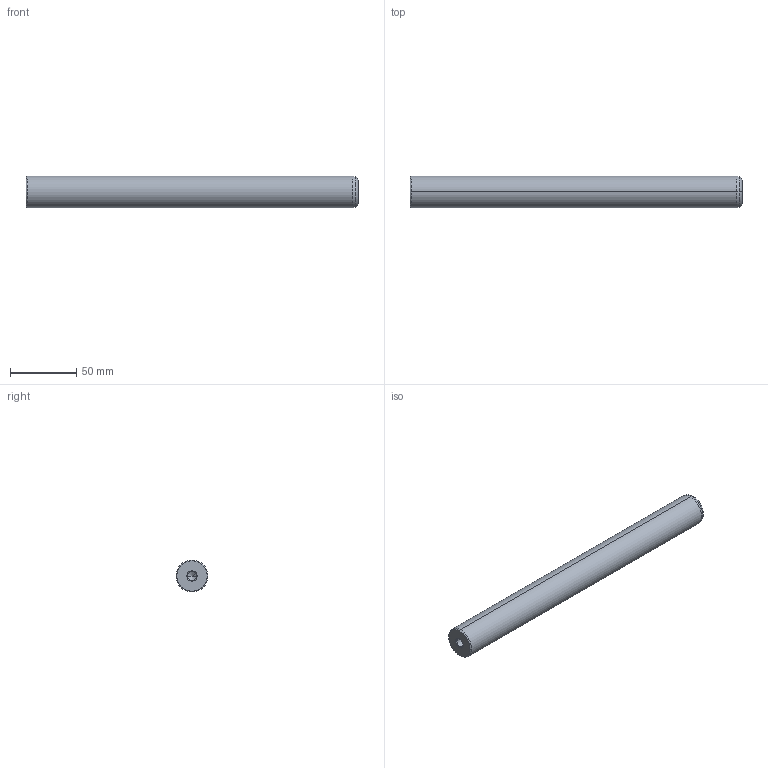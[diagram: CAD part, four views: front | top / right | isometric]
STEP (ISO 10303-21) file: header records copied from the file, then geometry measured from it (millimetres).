
FILE_DESCRIPTION(('CATIA V5 STEP Exchange'),'2;1');
FILE_NAME('C:\Users\Utente\Desktop\IO LAVORO\3D X SITO CF\X SITO\720\720-24x250.stp','2021-01-01T12:50:18+00:00',('none'),('none'),'CATIA Version 5 Release 20 GA (IN-10)','CATIA V5 STEP AP203','none');
FILE_SCHEMA(('CONFIG_CONTROL_DESIGN'));
Length unit declared in the file: millimetre
Products named in the file (1): 720-24x250
Bounding box: 250 x 24 x 24 mm (x, y, z)
Volume: 111131.5 mm3; surface area: 20589.6 mm2
Topology: 1 solids, 1 shells, 22 faces, 56 edges, 34 vertices
Faces by surface type: cone 12, cylinder 6, plane 2, torus 2
Entity records: 755 total; most frequent: CARTESIAN_POINT 216, ORIENTED_EDGE 104, DIRECTION 89, EDGE_CURVE 52, AXIS2_PLACEMENT_3D 50, VERTEX_POINT 34, CIRCLE 27, EDGE_LOOP 24
